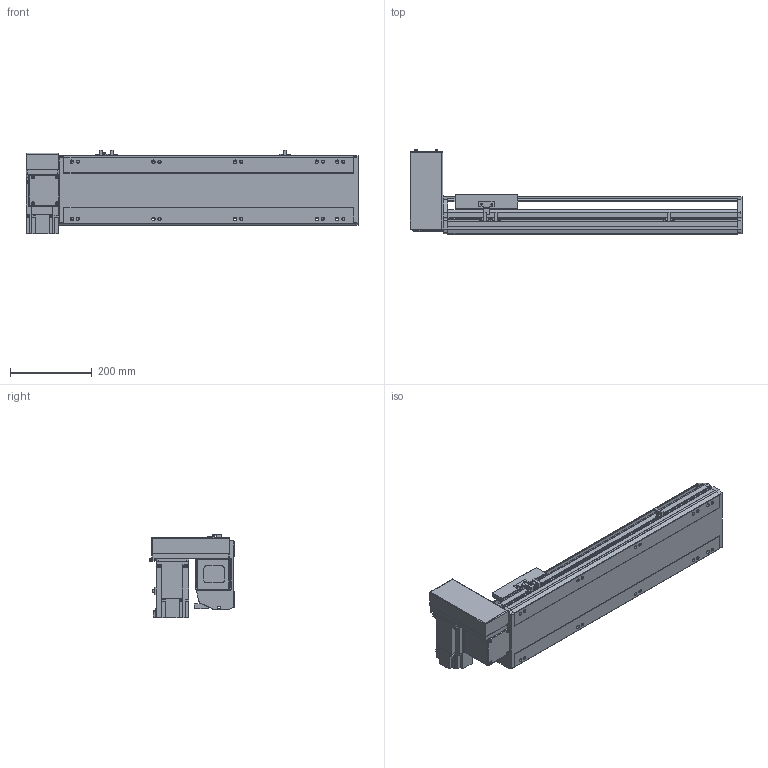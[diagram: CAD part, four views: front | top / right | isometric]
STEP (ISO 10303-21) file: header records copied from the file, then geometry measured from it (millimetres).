
FILE_DESCRIPTION( ( 'STEP AP214' ), '1' );
FILE_NAME( 'x:/temp/worker_5/temp/exporttempdir_3988_110_E8iHQ/format_0/PBS170-P40-S450-RU-T75-C1-N(0).stp', '2022-06-08T05:55:53', ( 'License CC BY-ND 4.0' ), ( 'CADENAS' ), ' ', 'PARTsolutions', ' ' );
FILE_SCHEMA( ( 'AUTOMOTIVE_DESIGN { 1 0 10303 214 1 1 1 1 }' ) );
Length unit declared in the file: millimetre
Products named in the file (7): PBS170-P40-S450-RU-T75-C1-N(0); _PBS170-S450()_body; _PBS170T-RU_motors; _T75-p1; _PBS170_sliser; _PBS170_plant; _PBS170_sensor
Assembly tree (8 placements, depth 2):
  PBS170-P40-S450-RU-T75-C1-N(0)
    _PBS170-S450()_body
    _PBS170T-RU_motors
    _T75-p1
    _PBS170_sliser
    _PBS170_plant
    _PBS170_sensor  x3
Bounding box: 813 x 206 x 205.3 mm (x, y, z)
Volume: 7068767.7 mm3; surface area: 968427.7 mm2
Topology: 8 solids, 8 shells, 1034 faces, 2755 edges, 1796 vertices
Faces by surface type: plane 669, cylinder 315, cone 40, sphere 8, torus 2
Full cylindrical faces by diameter (mm): 3.242 x4, 4 x2, 4.4 x4, 4.5 x6, 4.917 x4, 6 x9, 6.647 x18, 7 x2, 7.5 x4, 8 x8, 8.5 x10, 10 x4, 10.5 x10, 11 x2, 30 x2, 40 x1, 70 x1
Entity records: 37814 total; most frequent: CARTESIAN_POINT 5717, DIRECTION 5090, ORIENTED_EDGE 4848, EDGE_CURVE 2424, AXIS2_PLACEMENT_3D 1747, VERTEX_POINT 1658, LINE 1596, VECTOR 1596
